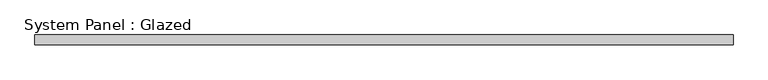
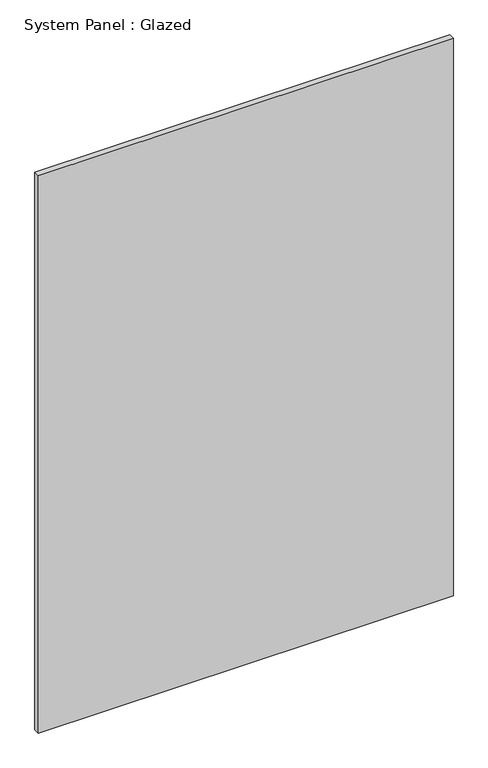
"""IFC4 building model written with IfcOpenShell, lengths in millimetres: plate geometry, System Panel : Glazed."""

from ifc_helpers import new_model, si_unit, origin, origin_with_axes, place, context, project, spatial, polyline, outline, extrude, source, transform, mapped, element, save


def system_panel_glazed_592a9e6c(model_context):
    return source(origin(), model_context, "Body", "SweptSolid", [
        extrude(outline(polyline([(907.033577, 19.05), (-907.033577, 19.05), (-907.033577, 44.45), (907.033577, 44.45), (907.033577, 19.05)])), origin_with_axes(), (0.0, 0.0, 1.0), 2573.8666667),
    ])


if __name__ == "__main__":
    model = new_model("IFC4")
    model_context = context("Model", 3, world=origin())
    ifc_project = project(units=[si_unit("LENGTHUNIT", "METRE", prefix="MILLI")], contexts=[model_context])
    site = spatial("IfcSite", under=ifc_project)
    building = spatial("IfcBuilding", under=site)
    placement = place(None, origin())
    system_panel_glazed_shape = system_panel_glazed_592a9e6c(model_context)
    element("IfcPlate", 1, ObjectType="System Panel : Glazed", at=placement, inside=building, context=model_context, shape_type="MappedRepresentation", body=[
        mapped(system_panel_glazed_shape, transform((0.0, 0.0, 0.0), x_axis=(1.0, 0.0, 0.0), y_axis=(0.0, 1.0, 0.0), z_axis=(0.0, 0.0, 1.0))),
    ])
    save(model, "model.ifc")
